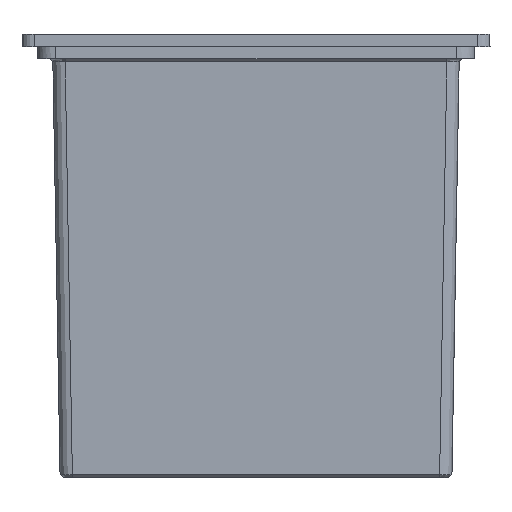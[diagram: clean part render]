
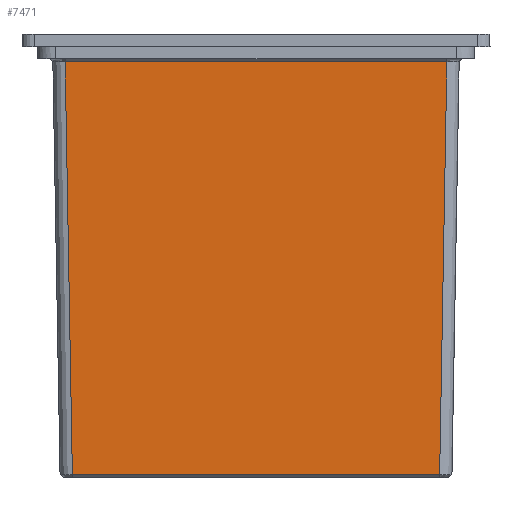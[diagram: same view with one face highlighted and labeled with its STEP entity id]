
A CAD part, left-side view. The second image highlights one B-rep face of the part: STEP entity #7471.
In plain terms, the highlighted planar face has unit normal (-1, 0, -0.018).
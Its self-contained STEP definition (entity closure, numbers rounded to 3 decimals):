
#1469=FACE_OUTER_BOUND('',#1703,.T.);
#1703=EDGE_LOOP('',(#6298,#6299,#6300,#6301));
#2044=LINE('',#12111,#2908);
#2045=LINE('',#12113,#2909);
#2046=LINE('',#12115,#2910);
#2047=LINE('',#12116,#2911);
#2908=VECTOR('',#8221,1.);
#2909=VECTOR('',#8222,1.);
#2910=VECTOR('',#8223,1.);
#2911=VECTOR('',#8224,1.);
#3818=VERTEX_POINT('',#12109);
#3819=VERTEX_POINT('',#12110);
#3820=VERTEX_POINT('',#12112);
#3821=VERTEX_POINT('',#12114);
#5022=EDGE_CURVE('',#3818,#3819,#2044,.T.);
#5023=EDGE_CURVE('',#3819,#3820,#2045,.T.);
#5024=EDGE_CURVE('',#3820,#3821,#2046,.T.);
#5025=EDGE_CURVE('',#3821,#3818,#2047,.T.);
#6298=ORIENTED_EDGE('',*,*,#5022,.T.);
#6299=ORIENTED_EDGE('',*,*,#5023,.T.);
#6300=ORIENTED_EDGE('',*,*,#5024,.T.);
#6301=ORIENTED_EDGE('',*,*,#5025,.T.);
#7325=PLANE('',#7711);
#7471=ADVANCED_FACE('',(#1469),#7325,.T.);
#7711=AXIS2_PLACEMENT_3D('',#12108,#8219,#8220);
#8219=DIRECTION('center_axis',(-1.,0.,-0.017));
#8220=DIRECTION('ref_axis',(0.,1.,0.));
#8221=DIRECTION('',(0.,1.,0.));
#8222=DIRECTION('',(0.017,-0.017,-1.));
#8223=DIRECTION('',(0.,-1.,0.));
#8224=DIRECTION('',(-0.017,-0.017,1.));
#12108=CARTESIAN_POINT('Origin',(-70.,-34.2,-2.));
#12109=CARTESIAN_POINT('',(-69.991,-30.992,-2.491));
#12110=CARTESIAN_POINT('',(-69.991,30.992,-2.491));
#12111=CARTESIAN_POINT('',(-69.991,-30.992,-2.491));
#12112=CARTESIAN_POINT('',(-68.822,29.822,-69.509));
#12113=CARTESIAN_POINT('',(-69.991,30.992,-2.491));
#12114=CARTESIAN_POINT('',(-68.822,-29.822,-69.509));
#12115=CARTESIAN_POINT('',(-68.822,29.822,-69.509));
#12116=CARTESIAN_POINT('',(-68.822,-29.822,-69.509));
